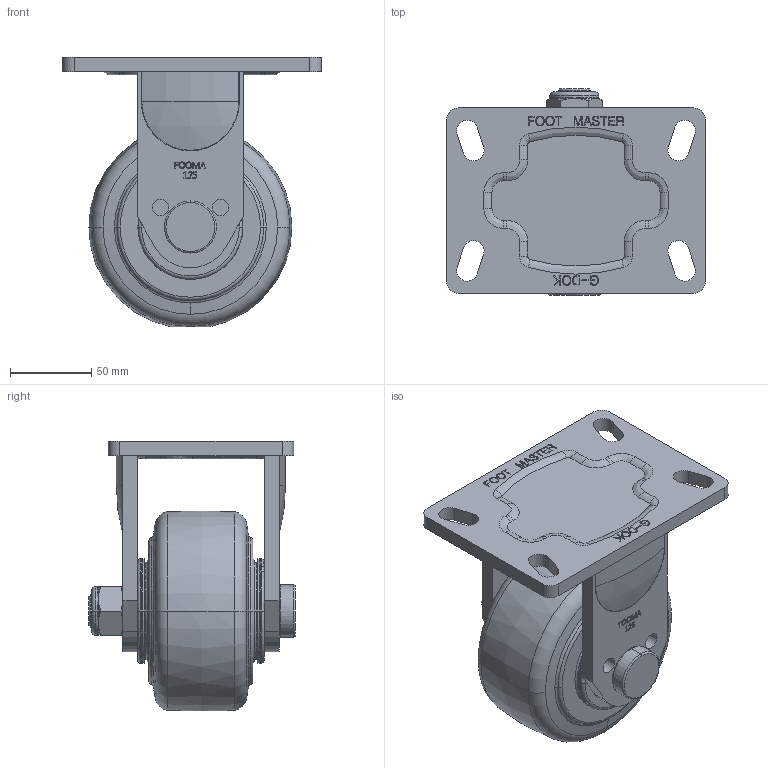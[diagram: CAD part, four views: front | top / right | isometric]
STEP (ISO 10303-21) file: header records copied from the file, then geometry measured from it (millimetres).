
FILE_DESCRIPTION((''),'2;1');
FILE_NAME('GF-125A-RF-MUD.stp','2012-06-07T20:01:06',(''),(''),'Mechanical Desktop 2009','Mechanical Desktop 2009',', , ');
FILE_SCHEMA(('CONFIG_CONTROL_DESIGN'));
Length unit declared in the file: millimetre
Products named in the file (2): GF-125A-RF-MUD; GF-RF-PLATE
Assembly tree (1 placements, depth 2):
  GF-125A-RF-MUD
    GF-RF-PLATE
Bounding box: 159 x 127 x 165.96 mm (x, y, z)
Volume: 1052070.1 mm3; surface area: 130832 mm2
Topology: 1 solids, 1 shells, 1109 faces, 3103 edges, 1998 vertices
Faces by surface type: bspline 448, plane 403, cylinder 172, torus 46, cone 36, sphere 4
Entity records: 39758 total; most frequent: CARTESIAN_POINT 13422, ORIENTED_EDGE 6174, DIRECTION 4433, EDGE_CURVE 3087, VERTEX_POINT 1998, AXIS2_PLACEMENT_3D 1499, VECTOR 1435, LINE 1435
